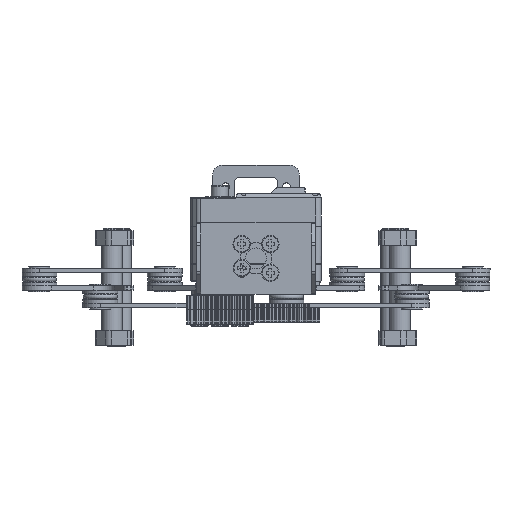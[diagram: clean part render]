
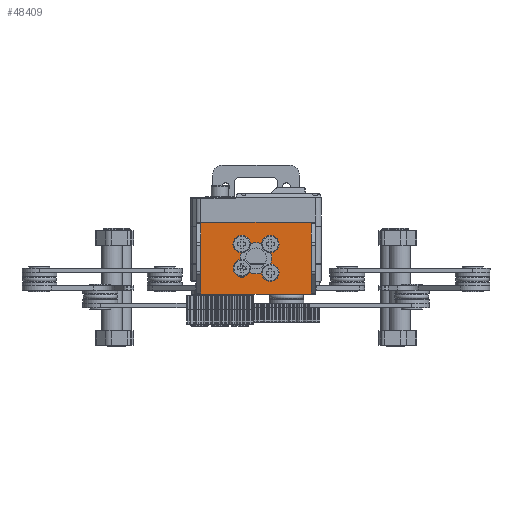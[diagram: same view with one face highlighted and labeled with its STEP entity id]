
A CAD part, front view. The second image highlights one B-rep face of the part: STEP entity #48409.
In plain terms, the highlighted planar face has unit normal (0, -1, 0) as drawn and (0, 0, -1) by its records, which use the part's own axes.
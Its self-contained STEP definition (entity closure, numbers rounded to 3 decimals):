
#847=FACE_BOUND('',#10708,.T.);
#3317=CIRCLE('',#53719,5.4);
#3318=CIRCLE('',#53720,0.36);
#3319=CIRCLE('',#53721,1.6);
#3320=CIRCLE('',#53722,0.36);
#3321=CIRCLE('',#53723,5.4);
#3322=CIRCLE('',#53724,0.36);
#3323=CIRCLE('',#53725,1.6);
#3324=CIRCLE('',#53726,0.36);
#3325=CIRCLE('',#53727,5.4);
#3326=CIRCLE('',#53728,0.36);
#3327=CIRCLE('',#53729,1.6);
#3328=CIRCLE('',#53730,0.36);
#3329=CIRCLE('',#53731,5.4);
#3330=CIRCLE('',#53732,0.36);
#3331=CIRCLE('',#53733,1.6);
#3332=CIRCLE('',#53734,0.36);
#7945=FACE_OUTER_BOUND('',#10707,.T.);
#10707=EDGE_LOOP('',(#39691,#39692,#39693,#39694));
#10708=EDGE_LOOP('',(#39695,#39696,#39697,#39698,#39699,#39700,#39701,#39702,
#39703,#39704,#39705,#39706,#39707,#39708,#39709,#39710));
#13843=LINE('',#80803,#17281);
#13846=LINE('',#80809,#17284);
#13847=LINE('',#80811,#17285);
#13848=LINE('',#80812,#17286);
#17281=VECTOR('',#65453,10.);
#17284=VECTOR('',#65458,10.);
#17285=VECTOR('',#65459,10.);
#17286=VECTOR('',#65460,10.);
#21683=VERTEX_POINT('',#80701);
#21730=VERTEX_POINT('',#80802);
#21732=VERTEX_POINT('',#80808);
#21733=VERTEX_POINT('',#80810);
#21734=VERTEX_POINT('',#80813);
#21735=VERTEX_POINT('',#80814);
#21736=VERTEX_POINT('',#80816);
#21737=VERTEX_POINT('',#80818);
#21738=VERTEX_POINT('',#80820);
#21739=VERTEX_POINT('',#80822);
#21740=VERTEX_POINT('',#80824);
#21741=VERTEX_POINT('',#80826);
#21742=VERTEX_POINT('',#80828);
#21743=VERTEX_POINT('',#80830);
#21744=VERTEX_POINT('',#80832);
#21745=VERTEX_POINT('',#80834);
#21746=VERTEX_POINT('',#80836);
#21747=VERTEX_POINT('',#80838);
#21748=VERTEX_POINT('',#80840);
#21749=VERTEX_POINT('',#80842);
#28058=EDGE_CURVE('',#21683,#21730,#13843,.T.);
#28061=EDGE_CURVE('',#21732,#21683,#13846,.T.);
#28062=EDGE_CURVE('',#21733,#21732,#13847,.T.);
#28063=EDGE_CURVE('',#21730,#21733,#13848,.T.);
#28064=EDGE_CURVE('',#21734,#21735,#3317,.T.);
#28065=EDGE_CURVE('',#21736,#21734,#3318,.T.);
#28066=EDGE_CURVE('',#21737,#21736,#3319,.T.);
#28067=EDGE_CURVE('',#21738,#21737,#3320,.T.);
#28068=EDGE_CURVE('',#21739,#21738,#3321,.T.);
#28069=EDGE_CURVE('',#21740,#21739,#3322,.T.);
#28070=EDGE_CURVE('',#21741,#21740,#3323,.T.);
#28071=EDGE_CURVE('',#21742,#21741,#3324,.T.);
#28072=EDGE_CURVE('',#21743,#21742,#3325,.T.);
#28073=EDGE_CURVE('',#21744,#21743,#3326,.T.);
#28074=EDGE_CURVE('',#21745,#21744,#3327,.T.);
#28075=EDGE_CURVE('',#21746,#21745,#3328,.T.);
#28076=EDGE_CURVE('',#21747,#21746,#3329,.T.);
#28077=EDGE_CURVE('',#21748,#21747,#3330,.T.);
#28078=EDGE_CURVE('',#21749,#21748,#3331,.T.);
#28079=EDGE_CURVE('',#21735,#21749,#3332,.T.);
#39691=ORIENTED_EDGE('',*,*,#28061,.F.);
#39692=ORIENTED_EDGE('',*,*,#28062,.F.);
#39693=ORIENTED_EDGE('',*,*,#28063,.F.);
#39694=ORIENTED_EDGE('',*,*,#28058,.F.);
#39695=ORIENTED_EDGE('',*,*,#28064,.F.);
#39696=ORIENTED_EDGE('',*,*,#28065,.F.);
#39697=ORIENTED_EDGE('',*,*,#28066,.F.);
#39698=ORIENTED_EDGE('',*,*,#28067,.F.);
#39699=ORIENTED_EDGE('',*,*,#28068,.F.);
#39700=ORIENTED_EDGE('',*,*,#28069,.F.);
#39701=ORIENTED_EDGE('',*,*,#28070,.F.);
#39702=ORIENTED_EDGE('',*,*,#28071,.F.);
#39703=ORIENTED_EDGE('',*,*,#28072,.F.);
#39704=ORIENTED_EDGE('',*,*,#28073,.F.);
#39705=ORIENTED_EDGE('',*,*,#28074,.F.);
#39706=ORIENTED_EDGE('',*,*,#28075,.F.);
#39707=ORIENTED_EDGE('',*,*,#28076,.F.);
#39708=ORIENTED_EDGE('',*,*,#28077,.F.);
#39709=ORIENTED_EDGE('',*,*,#28078,.F.);
#39710=ORIENTED_EDGE('',*,*,#28079,.F.);
#46495=PLANE('',#53718);
#48409=ADVANCED_FACE('',(#7945,#847),#46495,.F.);
#53718=AXIS2_PLACEMENT_3D('',#80807,#65456,#65457);
#53719=AXIS2_PLACEMENT_3D('',#80815,#65461,#65462);
#53720=AXIS2_PLACEMENT_3D('',#80817,#65463,#65464);
#53721=AXIS2_PLACEMENT_3D('',#80819,#65465,#65466);
#53722=AXIS2_PLACEMENT_3D('',#80821,#65467,#65468);
#53723=AXIS2_PLACEMENT_3D('',#80823,#65469,#65470);
#53724=AXIS2_PLACEMENT_3D('',#80825,#65471,#65472);
#53725=AXIS2_PLACEMENT_3D('',#80827,#65473,#65474);
#53726=AXIS2_PLACEMENT_3D('',#80829,#65475,#65476);
#53727=AXIS2_PLACEMENT_3D('',#80831,#65477,#65478);
#53728=AXIS2_PLACEMENT_3D('',#80833,#65479,#65480);
#53729=AXIS2_PLACEMENT_3D('',#80835,#65481,#65482);
#53730=AXIS2_PLACEMENT_3D('',#80837,#65483,#65484);
#53731=AXIS2_PLACEMENT_3D('',#80839,#65485,#65486);
#53732=AXIS2_PLACEMENT_3D('',#80841,#65487,#65488);
#53733=AXIS2_PLACEMENT_3D('',#80843,#65489,#65490);
#53734=AXIS2_PLACEMENT_3D('',#80844,#65491,#65492);
#65453=DIRECTION('',(-1.,0.,0.));
#65456=DIRECTION('center_axis',(0.,0.,1.));
#65457=DIRECTION('ref_axis',(1.,0.,0.));
#65458=DIRECTION('',(0.,1.,0.));
#65459=DIRECTION('',(1.,0.,0.));
#65460=DIRECTION('',(0.,-1.,0.));
#65461=DIRECTION('center_axis',(0.,0.,-1.));
#65462=DIRECTION('ref_axis',(-0.519,-0.855,0.));
#65463=DIRECTION('center_axis',(0.,0.,1.));
#65464=DIRECTION('ref_axis',(1.,-0.014,0.));
#65465=DIRECTION('center_axis',(0.,0.,-1.));
#65466=DIRECTION('ref_axis',(-1.,0.014,0.));
#65467=DIRECTION('center_axis',(0.,0.,1.));
#65468=DIRECTION('ref_axis',(-0.855,0.519,0.));
#65469=DIRECTION('center_axis',(0.,0.,-1.));
#65470=DIRECTION('ref_axis',(0.855,-0.519,0.));
#65471=DIRECTION('center_axis',(0.,0.,1.));
#65472=DIRECTION('ref_axis',(0.014,1.,0.));
#65473=DIRECTION('center_axis',(0.,0.,-1.));
#65474=DIRECTION('ref_axis',(-0.014,-1.,0.));
#65475=DIRECTION('center_axis',(0.,0.,1.));
#65476=DIRECTION('ref_axis',(-0.519,-0.855,0.));
#65477=DIRECTION('center_axis',(0.,0.,-1.));
#65478=DIRECTION('ref_axis',(0.519,0.855,0.));
#65479=DIRECTION('center_axis',(0.,0.,1.));
#65480=DIRECTION('ref_axis',(-1.,0.014,0.));
#65481=DIRECTION('center_axis',(0.,0.,-1.));
#65482=DIRECTION('ref_axis',(1.,-0.014,0.));
#65483=DIRECTION('center_axis',(0.,0.,1.));
#65484=DIRECTION('ref_axis',(0.855,-0.519,0.));
#65485=DIRECTION('center_axis',(0.,0.,-1.));
#65486=DIRECTION('ref_axis',(-0.855,0.519,0.));
#65487=DIRECTION('center_axis',(0.,0.,1.));
#65488=DIRECTION('ref_axis',(-0.014,-1.,0.));
#65489=DIRECTION('center_axis',(0.,0.,-1.));
#65490=DIRECTION('ref_axis',(0.014,1.,0.));
#65491=DIRECTION('center_axis',(0.,0.,1.));
#65492=DIRECTION('ref_axis',(0.519,0.855,0.));
#80701=CARTESIAN_POINT('',(-164.379,81.9,0.));
#80802=CARTESIAN_POINT('',(-202.379,81.9,0.));
#80803=CARTESIAN_POINT('',(-136.932,81.9,0.));
#80807=CARTESIAN_POINT('Origin',(-183.379,69.52,0.));
#80808=CARTESIAN_POINT('',(-164.379,57.14,0.));
#80809=CARTESIAN_POINT('',(-164.379,34.76,0.));
#80810=CARTESIAN_POINT('',(-202.379,57.14,0.));
#80811=CARTESIAN_POINT('',(-229.826,57.14,0.));
#80812=CARTESIAN_POINT('',(-202.379,34.76,0.));
#80813=CARTESIAN_POINT('',(-180.576,64.904,0.));
#80814=CARTESIAN_POINT('',(-186.182,64.904,0.));
#80815=CARTESIAN_POINT('Origin',(-183.379,69.52,0.));
#80816=CARTESIAN_POINT('',(-180.029,64.592,0.));
#80817=CARTESIAN_POINT('Origin',(-180.389,64.596,0.));
#80818=CARTESIAN_POINT('',(-178.451,66.17,0.));
#80819=CARTESIAN_POINT('Origin',(-178.429,64.57,0.));
#80820=CARTESIAN_POINT('',(-178.763,66.717,0.));
#80821=CARTESIAN_POINT('Origin',(-178.456,66.53,0.));
#80822=CARTESIAN_POINT('',(-178.763,72.323,0.));
#80823=CARTESIAN_POINT('Origin',(-183.379,69.52,0.));
#80824=CARTESIAN_POINT('',(-178.451,72.869,0.));
#80825=CARTESIAN_POINT('Origin',(-178.456,72.51,0.));
#80826=CARTESIAN_POINT('',(-180.029,74.448,0.));
#80827=CARTESIAN_POINT('Origin',(-178.429,74.469,0.));
#80828=CARTESIAN_POINT('',(-180.576,74.135,0.));
#80829=CARTESIAN_POINT('Origin',(-180.389,74.443,0.));
#80830=CARTESIAN_POINT('',(-186.182,74.135,0.));
#80831=CARTESIAN_POINT('Origin',(-183.379,69.52,0.));
#80832=CARTESIAN_POINT('',(-186.729,74.448,0.));
#80833=CARTESIAN_POINT('Origin',(-186.369,74.443,0.));
#80834=CARTESIAN_POINT('',(-188.307,72.869,0.));
#80835=CARTESIAN_POINT('Origin',(-188.329,74.469,0.));
#80836=CARTESIAN_POINT('',(-187.994,72.323,0.));
#80837=CARTESIAN_POINT('Origin',(-188.302,72.51,0.));
#80838=CARTESIAN_POINT('',(-187.994,66.717,0.));
#80839=CARTESIAN_POINT('Origin',(-183.379,69.52,0.));
#80840=CARTESIAN_POINT('',(-188.307,66.17,0.));
#80841=CARTESIAN_POINT('Origin',(-188.302,66.53,0.));
#80842=CARTESIAN_POINT('',(-186.729,64.592,0.));
#80843=CARTESIAN_POINT('Origin',(-188.329,64.57,0.));
#80844=CARTESIAN_POINT('Origin',(-186.369,64.596,0.));
